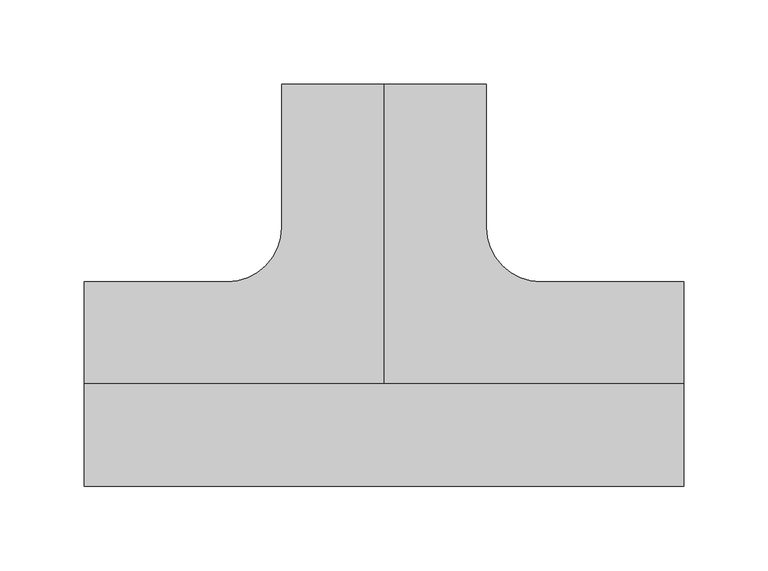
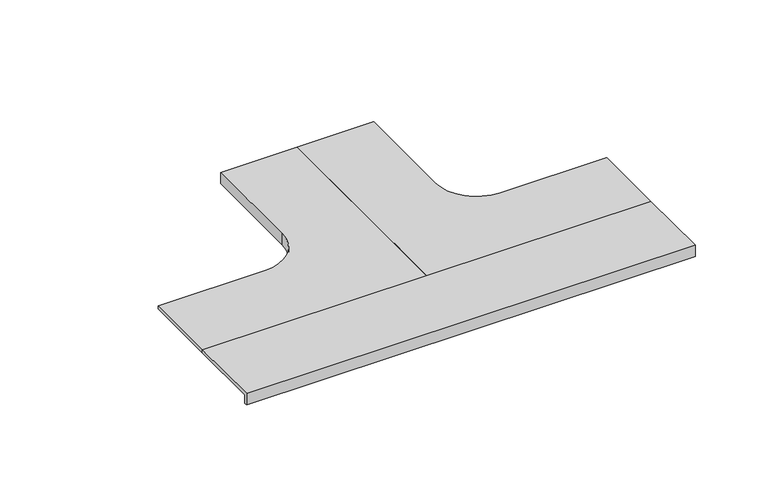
"""IFC4 building model written with IfcOpenShell, lengths in millimetres: cable carrier fitting geometry, CCT_Hyperline_FBTR-TEE-CVR Крышка на ответвитель Т-образный пластиковый : Крышка на ответвитель Т-образный пластиковый."""

import ifcopenshell
import ifcopenshell.guid

model = None  # the IFC model being written
_history = None  # IfcOwnerHistory: only IFC2X3 demands one
_inside = {}  # id of a spatial element -> (the spatial element, [elements in it])
_under = {}  # id of a project, library or spatial element -> (it, [spatial elements below it])
_declared = {}  # id of a project -> (the project, [libraries it declares])
_typed = {}  # id of a type object -> (the type object, [elements of that type])
_made_of = {}  # id of a material, layer set ... -> (it, [elements and type objects made of it])


def new_model(schema):
    """Start an empty IFC model of exactly this schema.

    Asked for "IFC4X3", IfcOpenShell would pick the latest addendum, in which some entities
    have other attributes; the version numbers below select the first issue.
    IFC2X3 requires an IfcOwnerHistory on every rooted entity: one is made here for all.
    """
    global model, _history
    if schema == "IFC4X3":
        model = ifcopenshell.file(schema_version=(4, 3, 0, 0))
    else:
        model = ifcopenshell.file(schema=schema)
    _inside.clear()
    _under.clear()
    _declared.clear()
    _typed.clear()
    _made_of.clear()
    _history = None
    if model.schema == "IFC2X3":
        org = make("IfcOrganization", Name="unknown")
        user = make(
            "IfcPersonAndOrganization",
            ThePerson=make("IfcPerson", FamilyName="unknown"),
            TheOrganization=org,
        )
        app = make(
            "IfcApplication",
            ApplicationDeveloper=org,
            Version="unknown",
            ApplicationFullName="unknown",
            ApplicationIdentifier="unknown",
        )
        _history = make(
            "IfcOwnerHistory",
            OwningUser=user,
            OwningApplication=app,
            ChangeAction="ADDED",
            CreationDate=0,
        )
    return model


def make(cls, **values):
    """One entity of the class cls with the attributes given. An attribute that is None is left unset."""
    return model.create_entity(
        cls, **{name: value for name, value in values.items() if value is not None}
    )


def rooted(cls, **values):
    """An entity with a GlobalId (a new one), such as an element, a storey or a relation."""
    return make(cls, GlobalId=ifcopenshell.guid.new(), OwnerHistory=_history, **values)


def si_unit(unit_type, name, prefix=None):
    """IfcSIUnit, for example si_unit("LENGTHUNIT", "METRE", prefix="MILLI")."""
    return make("IfcSIUnit", UnitType=unit_type, Prefix=prefix, Name=name)


def assignment(units):
    """IfcUnitAssignment: the units of a project."""
    return None if units is None else make("IfcUnitAssignment", Units=units)


def point(xyz):
    """IfcCartesianPoint."""
    return None if xyz is None else make("IfcCartesianPoint", Coordinates=xyz)


def direction(xyz):
    """IfcDirection."""
    return None if xyz is None else make("IfcDirection", DirectionRatios=xyz)


def frame(location, z_axis=None, x_axis=None):
    """IfcAxis2Placement3D, a coordinate frame: its origin and axes. An axis left out is left unset."""
    return make(
        "IfcAxis2Placement3D",
        Location=point(location),
        Axis=direction(z_axis),
        RefDirection=direction(x_axis),
    )


def origin():
    """The frame at (0, 0, 0) with its axes left unset."""
    return frame((0.0, 0.0, 0.0))


def place(relative_to, where):
    """IfcLocalPlacement: puts the frame where relative to a parent placement (None: the world)."""
    return make(
        "IfcLocalPlacement", PlacementRelTo=relative_to, RelativePlacement=where
    )


def context(
    kind, dimensions, precision=None, world=None, true_north=None, identifier=None
):
    """IfcGeometricRepresentationContext, for example the 3D "Model" context."""
    return make(
        "IfcGeometricRepresentationContext",
        ContextIdentifier=identifier,
        ContextType=kind,
        CoordinateSpaceDimension=dimensions,
        Precision=precision,
        WorldCoordinateSystem=world,
        TrueNorth=true_north,
    )


def project(units=None, contexts=None):
    """IfcProject with its units and contexts."""
    return rooted(
        "IfcProject",
        Name="project",
        RepresentationContexts=contexts,
        UnitsInContext=assignment(units),
    )


def spatial(cls, under=None, at=None, **own):
    """A site, building, storey or space (cls), placed at a placement, below another one or the project."""
    s = rooted(cls, ObjectPlacement=at, **own)
    if under is not None:
        _under.setdefault(under.id(), (under, []))[1].append(s)
    return s


def polyline(points):
    """IfcPolyline through the points."""
    return make("IfcPolyline", Points=[point(p) for p in points])


def circle_curve(where, radius):
    """IfcCircle in the frame where."""
    return make("IfcCircle", Position=where, Radius=radius)


def outline(outer, holes=None, kind="AREA"):
    """IfcArbitraryClosedProfileDef: a profile drawn as a closed curve; with holes, ...WithVoids."""
    if holes is None:
        return make("IfcArbitraryClosedProfileDef", ProfileType=kind, OuterCurve=outer)
    return make(
        "IfcArbitraryProfileDefWithVoids",
        ProfileType=kind,
        OuterCurve=outer,
        InnerCurves=holes,
    )


def extrude(swept, where, along, depth):
    """IfcExtrudedAreaSolid: the profile swept, set in the frame where, extruded along a direction by depth."""
    return make(
        "IfcExtrudedAreaSolid",
        SweptArea=swept,
        Position=where,
        ExtrudedDirection=direction(along),
        Depth=depth,
    )


def shape(context_of_items, identifier, shape_type, items):
    """IfcShapeRepresentation: the items that make up one representation, for example the "Body"."""
    return make(
        "IfcShapeRepresentation",
        ContextOfItems=context_of_items,
        RepresentationIdentifier=identifier,
        RepresentationType=shape_type,
        Items=items,
    )


def source(mapping_origin, context_of_items, identifier, shape_type, items):
    """IfcRepresentationMap: a shape defined once, which mapped items show again and again."""
    return make(
        "IfcRepresentationMap",
        MappingOrigin=mapping_origin,
        MappedRepresentation=shape(context_of_items, identifier, shape_type, items),
    )


def transform(
    local_origin,
    x_axis=None,
    y_axis=None,
    z_axis=None,
    scale=None,
    scale2=None,
    scale3=None,
    uniform=True,
):
    """IfcCartesianTransformationOperator3D, or its non-uniform kind. x_axis, y_axis, z_axis: its Axis1, 2, 3."""
    if uniform:
        return make(
            "IfcCartesianTransformationOperator3D",
            Axis1=direction(x_axis),
            Axis2=direction(y_axis),
            LocalOrigin=point(local_origin),
            Scale=scale,
            Axis3=direction(z_axis),
        )
    return make(
        "IfcCartesianTransformationOperator3DnonUniform",
        Axis1=direction(x_axis),
        Axis2=direction(y_axis),
        LocalOrigin=point(local_origin),
        Scale=scale,
        Axis3=direction(z_axis),
        Scale2=scale2,
        Scale3=scale3,
    )


def mapped(mapping_source, mapping_target):
    """IfcMappedItem: shows the shape of a source again, moved by a transform."""
    return make(
        "IfcMappedItem", MappingSource=mapping_source, MappingTarget=mapping_target
    )


def made_of(thing, what):
    """Note that an element or type object is made of a material, layer set ...; save() writes the relation."""
    if what is not None:
        _made_of.setdefault(what.id(), (what, []))[1].append(thing)
    return thing


def element(
    cls,
    number,
    at=None,
    inside=None,
    cuts=None,
    type_object=None,
    material=None,
    context=None,
    identifier="Body",
    shape_type=None,
    held_by="IfcProductDefinitionShape",
    body=None,
    shapes=None,
    **own,
):
    """One element of the class cls, such as IfcWall. Its Tag is "e" and its number.

    at: its placement. inside: the storey or other place that contains it. cuts: it is an
    opening in that element (IfcRelVoidsElement). A single representation is given by context,
    identifier, shape_type and body (its items); several are given by shapes. held_by: the class
    of the entity that holds the representations. save() writes the other relations.
    """
    e = rooted(cls, Tag="e%d" % number, ObjectPlacement=at, **own)
    if body is not None:
        shapes = [shape(context, identifier, shape_type, body)]
    if shapes is not None:
        e.Representation = make(held_by, Representations=shapes)
    if inside is not None:
        _inside.setdefault(inside.id(), (inside, []))[1].append(e)
    if cuts is not None:
        rooted(
            "IfcRelVoidsElement", RelatingBuildingElement=cuts, RelatedOpeningElement=e
        )
    if type_object is not None:
        _typed.setdefault(type_object.id(), (type_object, []))[1].append(e)
    return made_of(e, material)


def aggregate(whole, parts):
    """IfcRelAggregates: a whole, such as a stair, and the parts it consists of."""
    return rooted("IfcRelAggregates", RelatingObject=whole, RelatedObjects=parts)


def save(model, path):
    """Write the relations noted so far, then the file.

    IfcRelAggregates (storeys below a building ...), IfcRelContainedInSpatialStructure (elements
    in a storey), IfcRelDefinesByType, IfcRelAssociatesMaterial and IfcRelDeclares: one each for
    every whole, place, type object, material and project.
    """
    for whole, parts in _under.values():
        aggregate(whole, parts)
    for where, things in _inside.values():
        rooted(
            "IfcRelContainedInSpatialStructure",
            RelatedElements=things,
            RelatingStructure=where,
        )
    for kind, things in _typed.values():
        rooted("IfcRelDefinesByType", RelatedObjects=things, RelatingType=kind)
    for what, things in _made_of.values():
        rooted("IfcRelAssociatesMaterial", RelatedObjects=things, RelatingMaterial=what)
    for by, libraries in _declared.values():
        rooted("IfcRelDeclares", RelatingContext=by, RelatedDefinitions=libraries)
    model.write(path)


def plane_surface(at):
    """IfcPlane: the flat surface through the origin of the frame at, square to its z axis."""
    return make("IfcPlane", Position=at)


def cylinder_surface(at, radius):
    """IfcCylindricalSurface: all points at the distance radius from the z axis of the frame at."""
    return make("IfcCylindricalSurface", Position=at, Radius=radius)


def revolved_surface(curve, axis_point, axis_direction):
    """IfcSurfaceOfRevolution: the curve turned about the line through axis_point along axis_direction."""
    return make(
        "IfcSurfaceOfRevolution",
        SweptCurve=make("IfcArbitraryOpenProfileDef", ProfileType="CURVE", Curve=curve),
        AxisPosition=make("IfcAxis1Placement", Location=point(axis_point), Axis=direction(axis_direction)),
    )


def advanced_brep(points, edges, surfaces, faces):
    """IfcAdvancedBrep: a solid bounded by faces that lie on surfaces and meet in shared edges.

    An edge is (start, end): straight between two places in points (the first is 0);
    or (start, end, curve); or (start, end, curve, False) where it runs against its curve.
    A face is (place in surfaces, loops), or (place, loops, False) where it looks against
    its surface's normal. A loop lists edges by number (the first is 1), with a minus sign
    where the edge is run from its end to its start. The first loop is the outer one.
    """
    corners = [point(p) for p in points]
    vertices = [make("IfcVertexPoint", VertexGeometry=c) for c in corners]
    made = []
    for start, end, *more in edges:
        made.append(
            make(
                "IfcEdgeCurve",
                EdgeStart=vertices[start],
                EdgeEnd=vertices[end],
                EdgeGeometry=more[0] if more else make("IfcPolyline", Points=[corners[start], corners[end]]),
                SameSense=more[1] if len(more) > 1 else True,
            )
        )
    hull = []
    for where, loops, *sense in faces:
        bounds = []
        for j, loop in enumerate(loops):
            ring = [make("IfcOrientedEdge", EdgeElement=made[abs(k) - 1], Orientation=k > 0) for k in loop]
            bounds.append(
                make(
                    "IfcFaceOuterBound" if j == 0 else "IfcFaceBound",
                    Bound=make("IfcEdgeLoop", EdgeList=ring),
                    Orientation=True,
                )
            )
        hull.append(make("IfcAdvancedFace", Bounds=bounds, FaceSurface=surfaces[where], SameSense=sense[0] if sense else True))
    return make("IfcAdvancedBrep", Outer=make("IfcClosedShell", CfsFaces=hull))


def cable_carrier_fitting_865a7457(model_context):
    return source(origin(), model_context, "Body", "SolidModel", [
        extrude(outline(polyline([(-60.54, 52.54), (0.0, 52.54), (0.0, 50.0), (-58.0, 50.0), (-58.0, 43.0), (-60.54, 43.0), (-60.54, 52.54)])), frame((-177.5, 0.0, 0.0), z_axis=(1.0, 0.0, 0.0), x_axis=(0.0, 1.0, 0.0)), (0.0, 0.0, 1.0), 355.0),
        advanced_brep(
        [(177.5, 60.54, 52.54), (177.5, 0.0, 52.54), (177.5, 0.0, 50.0), (177.5, 60.54, 50.0), (93.0, 58.0, 50.0), (93.0, 58.0, 43.0), (157.5, 58.0, 43.0), (157.5, 58.0, 50.0), (58.0, 93.0, 43.0), (58.0, 177.5, 43.0), (60.54, 177.5, 43.0), (60.54, 93.0, 43.0), (93.0, 60.54, 43.0), (157.5, 60.54, 43.0), (93.0, 60.54, 52.54), (157.5, 60.54, 50.0), (58.0, 93.0, 50.0), (60.54, 93.0, 52.54), (0.0, 177.5, 52.54), (60.54, 177.5, 52.54), (58.0, 177.5, 50.0), (0.0, 177.5, 50.0), (0.0, 0.0, 52.54), (0.0, 0.0, 50.0)],
        [
            (0, 1),
            (1, 2),
            (2, 3),
            (3, 0),
            (4, 5),
            (5, 6),
            (6, 7),
            (7, 4),
            (5, 8, circle_curve(frame((93.0, 93.0, 43.0), z_axis=(0.0, 0.0, -1.0), x_axis=(0.0, -1.0, 0.0)), 35.0)),
            (8, 9),
            (9, 10),
            (10, 11),
            (11, 12, circle_curve(frame((93.0, 93.0, 43.0), z_axis=(0.0, 0.0, 1.0), x_axis=(0.0, -1.0, 0.0)), 32.46)),
            (12, 13),
            (13, 6),
            (14, 0),
            (3, 15),
            (15, 13),
            (12, 14),
            (4, 16, circle_curve(frame((93.0, 93.0, 50.0), z_axis=(0.0, 0.0, -1.0), x_axis=(0.0, -1.0, 0.0)), 35.0)),
            (16, 8),
            (17, 14, circle_curve(frame((93.0, 93.0, 52.54), z_axis=(0.0, 0.0, 1.0), x_axis=(0.0, -1.0, 0.0)), 32.46)),
            (11, 17),
            (18, 19),
            (19, 10),
            (9, 20),
            (20, 21),
            (21, 18),
            (16, 20),
            (19, 17),
            (18, 22),
            (22, 1),
            (22, 23),
            (23, 2),
            (23, 21),
            (7, 15),
        ],
        [
            plane_surface(frame((177.5, 58.0, 25.0), z_axis=(1.0, 0.0, 0.0), x_axis=(0.0, 0.0, 1.0))),
            plane_surface(frame((177.5, 58.0, 50.0), z_axis=(0.0, -1.0, 0.0), x_axis=(-1.0, 0.0, 0.0))),
            plane_surface(frame((177.5, 58.0, 43.0), z_axis=(0.0, 0.0, -1.0), x_axis=(-1.0, 0.0, 0.0))),
            plane_surface(frame((177.5, 60.54, 43.0), z_axis=(0.0, 1.0, 0.0), x_axis=(-1.0, 0.0, 0.0))),
            cylinder_surface(frame((93.0, 93.0, 25.0), z_axis=(0.0, 0.0, -1.0), x_axis=(0.0, -1.0, 0.0)), 35.0),
            revolved_surface(polyline([(93.0, 60.54, 43.0), (93.0, 60.54, 52.54)]), (93.0, 93.0, 25.0), (0.0, 0.0, -1.0)),
            plane_surface(frame((58.0, 177.5, 25.0), z_axis=(0.0, 1.0, 0.0), x_axis=(0.0, 0.0, 1.0))),
            plane_surface(frame((58.0, 93.0, 50.0), z_axis=(-1.0, 0.0, 0.0), x_axis=(0.0, 1.0, 0.0))),
            plane_surface(frame((60.54, 93.0, 43.0), z_axis=(1.0, 0.0, 0.0), x_axis=(0.0, 1.0, 0.0))),
            plane_surface(frame((177.5, 60.54, 52.54), z_axis=(0.0, 0.0, 1.0), x_axis=(-1.0, 0.0, 0.0))),
            plane_surface(frame((177.5, 0.0, 52.54), z_axis=(0.0, -1.0, 0.0), x_axis=(-1.0, 0.0, 0.0))),
            plane_surface(frame((177.5, 0.0, 50.0), z_axis=(0.0, 0.0, -1.0), x_axis=(-1.0, 0.0, 0.0))),
            plane_surface(frame((0.0, 93.0, 52.54), z_axis=(-1.0, 0.0, 0.0), x_axis=(0.0, 1.0, 0.0))),
            plane_surface(frame((157.5, 60.54, 43.0), z_axis=(1.0, 0.0, 0.0), x_axis=(0.0, -1.0, 0.0))),
        ],
        [
            (0, [[1, 2, 3, 4]]),
            (1, [[5, 6, 7, 8]]),
            (2, [[9, 10, 11, 12, 13, 14, 15, -6]]),
            (3, [[16, -4, 17, 18, -14, 19]]),
            (4, [[20, 21, -9, -5]]),
            (5, [[22, -19, -13, 23]]),
            (6, [[24, 25, -11, 26, 27, 28]]),
            (7, [[29, -26, -10, -21]]),
            (8, [[30, -23, -12, -25]]),
            (9, [[-1, -16, -22, -30, -24, 31, 32]]),
            (10, [[-2, -32, 33, 34]]),
            (11, [[-34, 35, -27, -29, -20, -8, 36, -17, -3]]),
            (12, [[-31, -28, -35, -33]]),
            (13, [[-36, -7, -15, -18]]),
        ],
    ),
        advanced_brep(
        [(-177.5, 60.54, 52.54), (-177.5, 60.54, 50.0), (-177.5, 0.0, 50.0), (-177.5, 0.0, 52.54), (-93.0, 58.0, 50.0), (-157.5, 58.0, 50.0), (-157.5, 58.0, 43.0), (-93.0, 58.0, 43.0), (-157.5, 60.54, 43.0), (-93.0, 60.54, 43.0), (-60.54, 93.0, 43.0), (-60.54, 177.5, 43.0), (-58.0, 177.5, 43.0), (-58.0, 93.0, 43.0), (-93.0, 60.54, 52.54), (-157.5, 60.54, 50.0), (-58.0, 93.0, 50.0), (-60.54, 93.0, 52.54), (0.0, 177.5, 52.54), (0.0, 177.5, 50.0), (-58.0, 177.5, 50.0), (-60.54, 177.5, 52.54), (0.0, 0.0, 52.54), (0.0, 0.0, 50.0)],
        [
            (0, 1),
            (1, 2),
            (2, 3),
            (3, 0),
            (4, 5),
            (5, 6),
            (6, 7),
            (7, 4),
            (6, 8),
            (8, 9),
            (9, 10, circle_curve(frame((-93.0, 93.0, 43.0), z_axis=(0.0, 0.0, 1.0), x_axis=(0.0, -1.0, 0.0)), 32.46)),
            (10, 11),
            (11, 12),
            (12, 13),
            (13, 7, circle_curve(frame((-93.0, 93.0, 43.0), z_axis=(0.0, 0.0, -1.0), x_axis=(0.0, -1.0, 0.0)), 35.0)),
            (14, 9),
            (8, 15),
            (15, 1),
            (0, 14),
            (13, 16),
            (16, 4, circle_curve(frame((-93.0, 93.0, 50.0), z_axis=(0.0, 0.0, -1.0), x_axis=(0.0, -1.0, 0.0)), 35.0)),
            (17, 10),
            (14, 17, circle_curve(frame((-93.0, 93.0, 52.54), z_axis=(0.0, 0.0, 1.0), x_axis=(0.0, -1.0, 0.0)), 32.46)),
            (18, 19),
            (19, 20),
            (20, 12),
            (11, 21),
            (21, 18),
            (20, 16),
            (17, 21),
            (3, 22),
            (22, 18),
            (2, 23),
            (23, 22),
            (15, 5),
            (19, 23),
        ],
        [
            plane_surface(frame((-177.5, 58.0, 25.0), z_axis=(-1.0, 0.0, 0.0), x_axis=(0.0, 0.0, 1.0))),
            plane_surface(frame((-177.5, 58.0, 50.0), z_axis=(0.0, -1.0, 0.0), x_axis=(1.0, 0.0, 0.0))),
            plane_surface(frame((-177.5, 58.0, 43.0), z_axis=(0.0, 0.0, -1.0), x_axis=(1.0, 0.0, 0.0))),
            plane_surface(frame((-177.5, 60.54, 43.0), z_axis=(0.0, 1.0, 0.0), x_axis=(1.0, 0.0, 0.0))),
            cylinder_surface(frame((-93.0, 93.0, 25.0), z_axis=(0.0, 0.0, -1.0), x_axis=(0.0, -1.0, 0.0)), 35.0),
            revolved_surface(polyline([(-93.0, 60.54, 43.0), (-93.0, 60.54, 52.54)]), (-93.0, 93.0, 25.0), (0.0, 0.0, -1.0)),
            plane_surface(frame((-58.0, 177.5, 25.0), z_axis=(0.0, 1.0, 0.0), x_axis=(0.0, 0.0, 1.0))),
            plane_surface(frame((-58.0, 93.0, 50.0), z_axis=(1.0, 0.0, 0.0), x_axis=(0.0, 1.0, 0.0))),
            plane_surface(frame((-60.54, 93.0, 43.0), z_axis=(-1.0, 0.0, 0.0), x_axis=(0.0, 1.0, 0.0))),
            plane_surface(frame((-177.5, 60.54, 52.54), z_axis=(0.0, 0.0, 1.0), x_axis=(1.0, 0.0, 0.0))),
            plane_surface(frame((-177.5, 0.0, 52.54), z_axis=(0.0, -1.0, 0.0), x_axis=(1.0, 0.0, 0.0))),
            plane_surface(frame((-177.5, 0.0, 50.0), z_axis=(0.0, 0.0, -1.0), x_axis=(1.0, 0.0, 0.0))),
            plane_surface(frame((0.0, 93.0, 52.54), z_axis=(1.0, 0.0, 0.0), x_axis=(0.0, 1.0, 0.0))),
            plane_surface(frame((-157.5, 60.54, 43.0), z_axis=(-1.0, 0.0, 0.0), x_axis=(0.0, -1.0, 0.0))),
        ],
        [
            (0, [[1, 2, 3, 4]]),
            (1, [[5, 6, 7, 8]]),
            (2, [[-7, 9, 10, 11, 12, 13, 14, 15]]),
            (3, [[16, -10, 17, 18, -1, 19]]),
            (4, [[-8, -15, 20, 21]]),
            (5, [[22, -11, -16, 23]]),
            (6, [[24, 25, 26, -13, 27, 28]]),
            (7, [[-20, -14, -26, 29]]),
            (8, [[-27, -12, -22, 30]]),
            (9, [[31, 32, -28, -30, -23, -19, -4]]),
            (10, [[33, 34, -31, -3]]),
            (11, [[-2, -18, 35, -5, -21, -29, -25, 36, -33]]),
            (12, [[-34, -36, -24, -32]]),
            (13, [[-17, -9, -6, -35]]),
        ],
    ),
    ])


if __name__ == "__main__":
    model = new_model("IFC4")
    model_context = context("Model", 3, world=origin())
    ifc_project = project(units=[si_unit("LENGTHUNIT", "METRE", prefix="MILLI")], contexts=[model_context])
    site = spatial("IfcSite", under=ifc_project)
    building = spatial("IfcBuilding", under=site)
    placement = place(None, origin())
    cable_carrier_fitting_shape = cable_carrier_fitting_865a7457(model_context)
    element("IfcCableCarrierFitting", 1, ObjectType="CCT_Hyperline_FBTR-TEE-CVR Крышка на ответвитель Т-образный пластиковый : Крышка на ответвитель Т-образный пластиковый", at=placement, inside=building, context=model_context, shape_type="MappedRepresentation", body=[
        mapped(cable_carrier_fitting_shape, transform((0.0, 0.0, 0.0), x_axis=(1.0, 0.0, 0.0), y_axis=(0.0, 1.0, 0.0), z_axis=(0.0, 0.0, 1.0))),
    ])
    save(model, "model.ifc")
